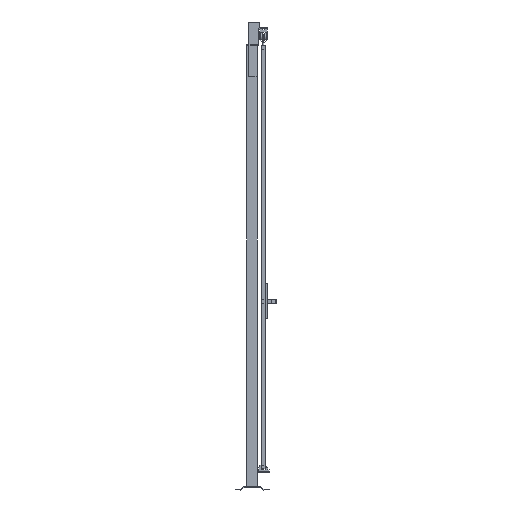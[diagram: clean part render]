
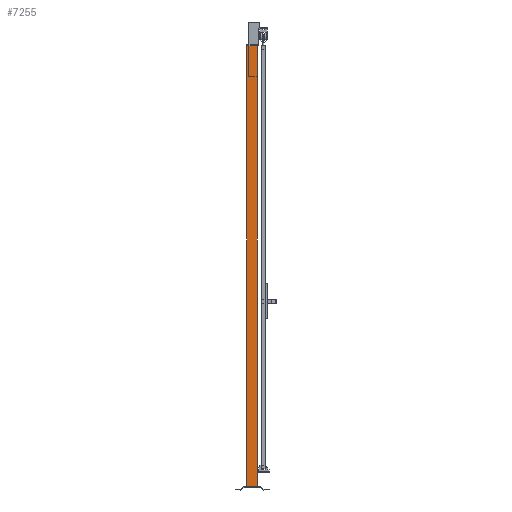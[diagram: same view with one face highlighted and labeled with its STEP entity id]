
A CAD part, left-side view. The second image highlights one B-rep face of the part: STEP entity #7255.
In plain terms, the highlighted planar face has unit normal (-1, 0, 0).
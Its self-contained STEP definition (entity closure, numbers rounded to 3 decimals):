
#617=FACE_OUTER_BOUND('',#1127,.T.);
#1127=EDGE_LOOP('',(#4278,#4279,#4280,#4281));
#1676=VERTEX_POINT('',#14402);
#1677=VERTEX_POINT('',#14404);
#1680=VERTEX_POINT('',#14411);
#1681=VERTEX_POINT('',#14413);
#2744=EDGE_CURVE('',#1676,#1677,#8184,.T.);
#2748=EDGE_CURVE('',#1680,#1681,#8188,.T.);
#2750=EDGE_CURVE('',#1677,#1680,#8190,.T.);
#2752=EDGE_CURVE('',#1676,#1681,#8192,.T.);
#4278=ORIENTED_EDGE('',*,*,#2752,.T.);
#4279=ORIENTED_EDGE('',*,*,#2748,.F.);
#4280=ORIENTED_EDGE('',*,*,#2750,.F.);
#4281=ORIENTED_EDGE('',*,*,#2744,.F.);
#6797=PLANE('',#10630);
#7255=ADVANCED_FACE('',(#617),#6797,.F.);
#8184=LINE('',#14405,#9456);
#8188=LINE('',#14414,#9460);
#8190=LINE('',#14417,#9462);
#8192=LINE('',#14420,#9464);
#9456=VECTOR('',#11539,1.);
#9460=VECTOR('',#11545,1.);
#9462=VECTOR('',#11549,1.);
#9464=VECTOR('',#11553,1.);
#10630=AXIS2_PLACEMENT_3D('',#14419,#11551,#11552);
#11539=DIRECTION('',(0.,-1.,0.));
#11545=DIRECTION('',(0.,1.,0.));
#11549=DIRECTION('',(0.,0.,-1.));
#11551=DIRECTION('center_axis',(1.,0.,0.));
#11552=DIRECTION('ref_axis',(0.,0.,-1.));
#11553=DIRECTION('',(0.,0.,-1.));
#14402=CARTESIAN_POINT('',(-30.,30.,2520.));
#14404=CARTESIAN_POINT('',(-30.,-30.,2520.));
#14405=CARTESIAN_POINT('',(-30.,0.,2520.));
#14411=CARTESIAN_POINT('',(-30.,-30.,20.));
#14413=CARTESIAN_POINT('',(-30.,30.,20.));
#14414=CARTESIAN_POINT('',(-30.,0.,20.));
#14417=CARTESIAN_POINT('',(-30.,-30.,1270.));
#14419=CARTESIAN_POINT('Origin',(-30.,0.,
1270.));
#14420=CARTESIAN_POINT('',(-30.,30.,1270.));
